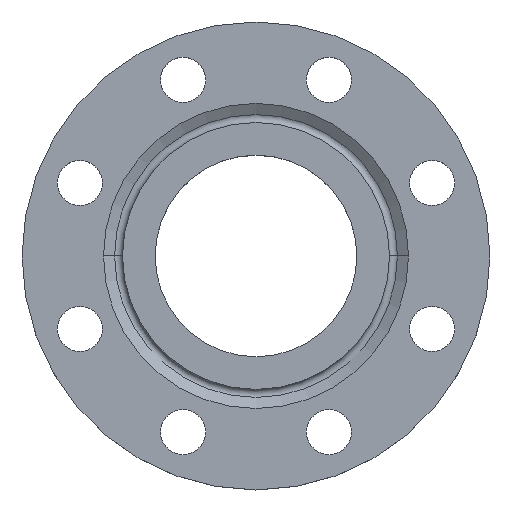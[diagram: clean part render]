
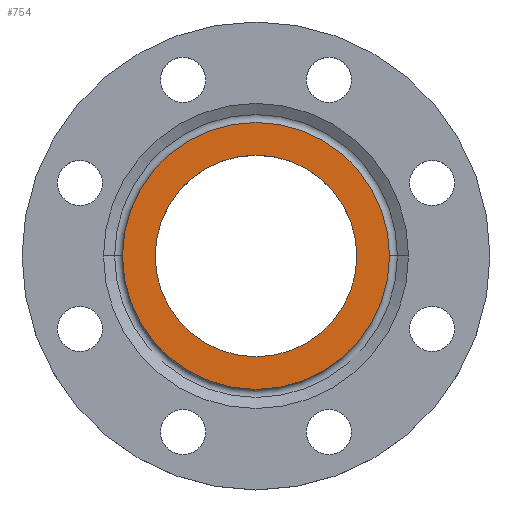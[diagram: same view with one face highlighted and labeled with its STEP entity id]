
A CAD part, top view. The second image highlights one B-rep face of the part: STEP entity #754.
In plain terms, the highlighted planar face has unit normal (0, 0, 1).
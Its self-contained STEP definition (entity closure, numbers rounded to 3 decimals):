
#20 = CIRCLE ( 'NONE', #503, 77. ) ;
#75 = VERTEX_POINT ( 'NONE', #578 ) ;
#136 = ORIENTED_EDGE ( 'NONE', *, *, #549, .F. ) ;
#157 = DIRECTION ( 'NONE',  ( 1., 0., 0. ) ) ;
#161 = VERTEX_POINT ( 'NONE', #168 ) ;
#168 = CARTESIAN_POINT ( 'NONE',  ( -77., 0., 0. ) ) ;
#191 = DIRECTION ( 'NONE',  ( 1., 0., 0. ) ) ;
#240 = PLANE ( 'NONE',  #337 ) ;
#277 = DIRECTION ( 'NONE',  ( 0., 0., 1. ) ) ;
#288 = AXIS2_PLACEMENT_3D ( 'NONE', #391, #1077, #641 ) ;
#319 = DIRECTION ( 'NONE',  ( 0., 0., -1. ) ) ;
#337 = AXIS2_PLACEMENT_3D ( 'NONE', #489, #581, #157 ) ;
#342 = ORIENTED_EDGE ( 'NONE', *, *, #520, .F. ) ;
#357 = DIRECTION ( 'NONE',  ( -1., 0., 0. ) ) ;
#360 = DIRECTION ( 'NONE',  ( -1., 0., 0. ) ) ;
#391 = CARTESIAN_POINT ( 'NONE',  ( 0., 0., 0. ) ) ;
#418 = CARTESIAN_POINT ( 'NONE',  ( 58.17, 0., 0. ) ) ;
#434 = CARTESIAN_POINT ( 'NONE',  ( 0., 0., 0. ) ) ;
#489 = CARTESIAN_POINT ( 'NONE',  ( 0., 0., 0. ) ) ;
#503 = AXIS2_PLACEMENT_3D ( 'NONE', #434, #774, #357 ) ;
#517 = CIRCLE ( 'NONE', #1110, 58.17 ) ;
#520 = EDGE_CURVE ( 'NONE', #1067, #161, #20, .T. ) ;
#549 = EDGE_CURVE ( 'NONE', #161, #1067, #693, .T. ) ;
#561 = AXIS2_PLACEMENT_3D ( 'NONE', #1085, #319, #360 ) ;
#578 = CARTESIAN_POINT ( 'NONE',  ( -58.17, 0., 0. ) ) ;
#581 = DIRECTION ( 'NONE',  ( 0., 0., 1. ) ) ;
#617 = CARTESIAN_POINT ( 'NONE',  ( 0., 0., 0. ) ) ;
#641 = DIRECTION ( 'NONE',  ( 1., 0., 0. ) ) ;
#680 = EDGE_CURVE ( 'NONE', #818, #75, #517, .T. ) ;
#693 = CIRCLE ( 'NONE', #561, 77. ) ;
#708 = EDGE_LOOP ( 'NONE', ( #136, #342 ) ) ;
#737 = ORIENTED_EDGE ( 'NONE', *, *, #680, .F. ) ;
#754 = ADVANCED_FACE ( 'NONE', ( #800, #1017 ), #240, .T. ) ;
#767 = EDGE_CURVE ( 'NONE', #75, #818, #770, .T. ) ;
#769 = CARTESIAN_POINT ( 'NONE',  ( 77., 0., 0. ) ) ;
#770 = CIRCLE ( 'NONE', #288, 58.17 ) ;
#774 = DIRECTION ( 'NONE',  ( 0., 0., -1. ) ) ;
#800 = FACE_BOUND ( 'NONE', #902, .T. ) ;
#818 = VERTEX_POINT ( 'NONE', #418 ) ;
#902 = EDGE_LOOP ( 'NONE', ( #737, #1082 ) ) ;
#1017 = FACE_OUTER_BOUND ( 'NONE', #708, .T. ) ;
#1067 = VERTEX_POINT ( 'NONE', #769 ) ;
#1077 = DIRECTION ( 'NONE',  ( 0., 0., 1. ) ) ;
#1082 = ORIENTED_EDGE ( 'NONE', *, *, #767, .F. ) ;
#1085 = CARTESIAN_POINT ( 'NONE',  ( 0., 0., 0. ) ) ;
#1110 = AXIS2_PLACEMENT_3D ( 'NONE', #617, #277, #191 ) ;
